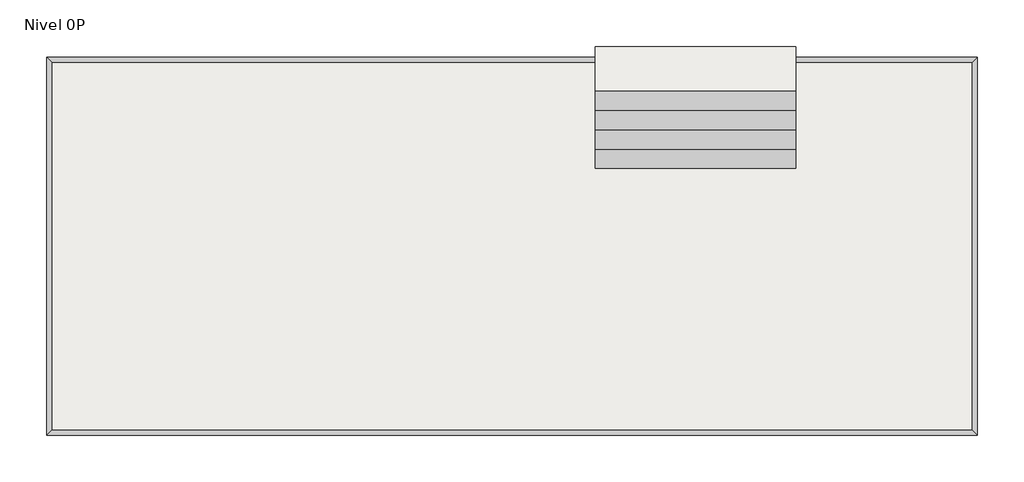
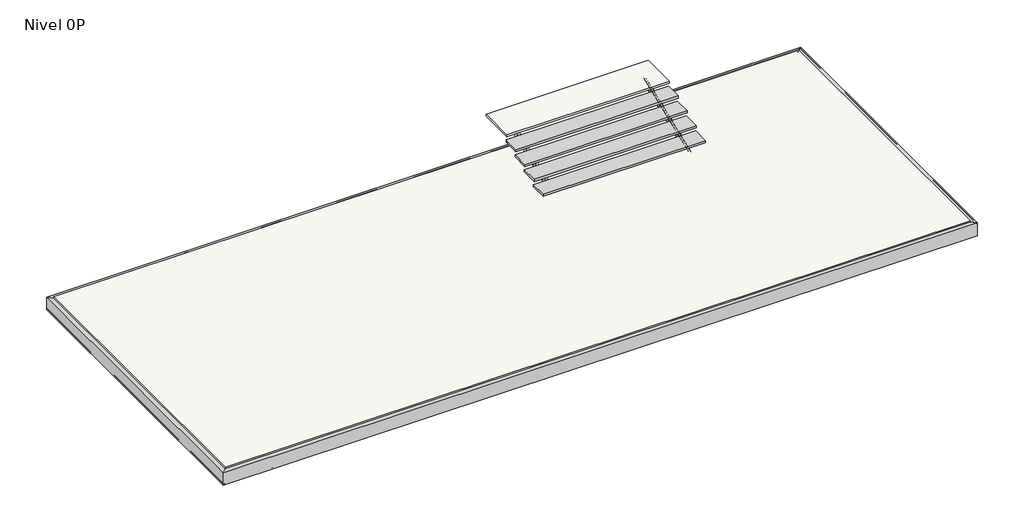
# One storey: 6 beams, 2 slabs, 1 stair flight.
"""IFC4 building model written with IfcOpenShell, lengths in millimetres."""

import ifcopenshell
import ifcopenshell.guid

model = None  # the IFC model being written
_history = None  # IfcOwnerHistory: only IFC2X3 demands one
_inside = {}  # id of a spatial element -> (the spatial element, [elements in it])
_under = {}  # id of a project, library or spatial element -> (it, [spatial elements below it])
_declared = {}  # id of a project -> (the project, [libraries it declares])
_typed = {}  # id of a type object -> (the type object, [elements of that type])
_made_of = {}  # id of a material, layer set ... -> (it, [elements and type objects made of it])


def new_model(schema):
    """Start an empty IFC model of exactly this schema.

    Asked for "IFC4X3", IfcOpenShell would pick the latest addendum, in which some entities
    have other attributes; the version numbers below select the first issue.
    IFC2X3 requires an IfcOwnerHistory on every rooted entity: one is made here for all.
    """
    global model, _history
    if schema == "IFC4X3":
        model = ifcopenshell.file(schema_version=(4, 3, 0, 0))
    else:
        model = ifcopenshell.file(schema=schema)
    _inside.clear()
    _under.clear()
    _declared.clear()
    _typed.clear()
    _made_of.clear()
    _history = None
    if model.schema == "IFC2X3":
        org = make("IfcOrganization", Name="unknown")
        user = make(
            "IfcPersonAndOrganization",
            ThePerson=make("IfcPerson", FamilyName="unknown"),
            TheOrganization=org,
        )
        app = make(
            "IfcApplication",
            ApplicationDeveloper=org,
            Version="unknown",
            ApplicationFullName="unknown",
            ApplicationIdentifier="unknown",
        )
        _history = make(
            "IfcOwnerHistory",
            OwningUser=user,
            OwningApplication=app,
            ChangeAction="ADDED",
            CreationDate=0,
        )
    return model


def make(cls, **values):
    """One entity of the class cls with the attributes given. An attribute that is None is left unset."""
    return model.create_entity(
        cls, **{name: value for name, value in values.items() if value is not None}
    )


def rooted(cls, **values):
    """An entity with a GlobalId (a new one), such as an element, a storey or a relation."""
    return make(cls, GlobalId=ifcopenshell.guid.new(), OwnerHistory=_history, **values)


def si_unit(unit_type, name, prefix=None):
    """IfcSIUnit, for example si_unit("LENGTHUNIT", "METRE", prefix="MILLI")."""
    return make("IfcSIUnit", UnitType=unit_type, Prefix=prefix, Name=name)


def assignment(units):
    """IfcUnitAssignment: the units of a project."""
    return None if units is None else make("IfcUnitAssignment", Units=units)


def point(xyz):
    """IfcCartesianPoint."""
    return None if xyz is None else make("IfcCartesianPoint", Coordinates=xyz)


def direction(xyz):
    """IfcDirection."""
    return None if xyz is None else make("IfcDirection", DirectionRatios=xyz)


def frame(location, z_axis=None, x_axis=None):
    """IfcAxis2Placement3D, a coordinate frame: its origin and axes. An axis left out is left unset."""
    return make(
        "IfcAxis2Placement3D",
        Location=point(location),
        Axis=direction(z_axis),
        RefDirection=direction(x_axis),
    )


def frame_2d(location, x_axis=None):
    """IfcAxis2Placement2D, a coordinate frame in the plane: its origin and x axis."""
    return make(
        "IfcAxis2Placement2D", Location=point(location), RefDirection=direction(x_axis)
    )


def origin():
    """The frame at (0, 0, 0) with its axes left unset."""
    return frame((0.0, 0.0, 0.0))


def place(relative_to, where):
    """IfcLocalPlacement: puts the frame where relative to a parent placement (None: the world)."""
    return make(
        "IfcLocalPlacement", PlacementRelTo=relative_to, RelativePlacement=where
    )


def context(
    kind, dimensions, precision=None, world=None, true_north=None, identifier=None
):
    """IfcGeometricRepresentationContext, for example the 3D "Model" context."""
    return make(
        "IfcGeometricRepresentationContext",
        ContextIdentifier=identifier,
        ContextType=kind,
        CoordinateSpaceDimension=dimensions,
        Precision=precision,
        WorldCoordinateSystem=world,
        TrueNorth=true_north,
    )


def project(units=None, contexts=None):
    """IfcProject with its units and contexts."""
    return rooted(
        "IfcProject",
        Name="project",
        RepresentationContexts=contexts,
        UnitsInContext=assignment(units),
    )


def spatial(cls, under=None, at=None, **own):
    """A site, building, storey or space (cls), placed at a placement, below another one or the project."""
    s = rooted(cls, ObjectPlacement=at, **own)
    if under is not None:
        _under.setdefault(under.id(), (under, []))[1].append(s)
    return s


def polyline(points):
    """IfcPolyline through the points."""
    return make("IfcPolyline", Points=[point(p) for p in points])


def circle_curve(where, radius):
    """IfcCircle in the frame where."""
    return make("IfcCircle", Position=where, Radius=radius)


def ellipse_curve(where, semi_axis1, semi_axis2):
    """IfcEllipse in the frame where."""
    return make(
        "IfcEllipse", Position=where, SemiAxis1=semi_axis1, SemiAxis2=semi_axis2
    )


def trimmed(basis, trim1, trim2, sense, master):
    """IfcTrimmedCurve: the piece of a basis curve between two trims."""
    return make(
        "IfcTrimmedCurve",
        BasisCurve=basis,
        Trim1=trim1,
        Trim2=trim2,
        SenseAgreement=sense,
        MasterRepresentation=master,
    )


def segment(curve, same_sense, transition):
    """IfcCompositeCurveSegment."""
    return make(
        "IfcCompositeCurveSegment",
        Transition=transition,
        SameSense=same_sense,
        ParentCurve=curve,
    )


def composite_curve(segments, self_intersect=None):
    """IfcCompositeCurve: segments joined end to end."""
    return make("IfcCompositeCurve", Segments=segments, SelfIntersect=self_intersect)


def outline(outer, holes=None, kind="AREA"):
    """IfcArbitraryClosedProfileDef: a profile drawn as a closed curve; with holes, ...WithVoids."""
    if holes is None:
        return make("IfcArbitraryClosedProfileDef", ProfileType=kind, OuterCurve=outer)
    return make(
        "IfcArbitraryProfileDefWithVoids",
        ProfileType=kind,
        OuterCurve=outer,
        InnerCurves=holes,
    )


def extrude(swept, where, along, depth):
    """IfcExtrudedAreaSolid: the profile swept, set in the frame where, extruded along a direction by depth."""
    return make(
        "IfcExtrudedAreaSolid",
        SweptArea=swept,
        Position=where,
        ExtrudedDirection=direction(along),
        Depth=depth,
    )


def shape(context_of_items, identifier, shape_type, items):
    """IfcShapeRepresentation: the items that make up one representation, for example the "Body"."""
    return make(
        "IfcShapeRepresentation",
        ContextOfItems=context_of_items,
        RepresentationIdentifier=identifier,
        RepresentationType=shape_type,
        Items=items,
    )


def source(mapping_origin, context_of_items, identifier, shape_type, items):
    """IfcRepresentationMap: a shape defined once, which mapped items show again and again."""
    return make(
        "IfcRepresentationMap",
        MappingOrigin=mapping_origin,
        MappedRepresentation=shape(context_of_items, identifier, shape_type, items),
    )


def transform(
    local_origin,
    x_axis=None,
    y_axis=None,
    z_axis=None,
    scale=None,
    scale2=None,
    scale3=None,
    uniform=True,
):
    """IfcCartesianTransformationOperator3D, or its non-uniform kind. x_axis, y_axis, z_axis: its Axis1, 2, 3."""
    if uniform:
        return make(
            "IfcCartesianTransformationOperator3D",
            Axis1=direction(x_axis),
            Axis2=direction(y_axis),
            LocalOrigin=point(local_origin),
            Scale=scale,
            Axis3=direction(z_axis),
        )
    return make(
        "IfcCartesianTransformationOperator3DnonUniform",
        Axis1=direction(x_axis),
        Axis2=direction(y_axis),
        LocalOrigin=point(local_origin),
        Scale=scale,
        Axis3=direction(z_axis),
        Scale2=scale2,
        Scale3=scale3,
    )


def mapped(mapping_source, mapping_target):
    """IfcMappedItem: shows the shape of a source again, moved by a transform."""
    return make(
        "IfcMappedItem", MappingSource=mapping_source, MappingTarget=mapping_target
    )


def made_of(thing, what):
    """Note that an element or type object is made of a material, layer set ...; save() writes the relation."""
    if what is not None:
        _made_of.setdefault(what.id(), (what, []))[1].append(thing)
    return thing


def element(
    cls,
    number,
    at=None,
    inside=None,
    cuts=None,
    type_object=None,
    material=None,
    context=None,
    identifier="Body",
    shape_type=None,
    held_by="IfcProductDefinitionShape",
    body=None,
    shapes=None,
    **own,
):
    """One element of the class cls, such as IfcWall. Its Tag is "e" and its number.

    at: its placement. inside: the storey or other place that contains it. cuts: it is an
    opening in that element (IfcRelVoidsElement). A single representation is given by context,
    identifier, shape_type and body (its items); several are given by shapes. held_by: the class
    of the entity that holds the representations. save() writes the other relations.
    """
    e = rooted(cls, Tag="e%d" % number, ObjectPlacement=at, **own)
    if body is not None:
        shapes = [shape(context, identifier, shape_type, body)]
    if shapes is not None:
        e.Representation = make(held_by, Representations=shapes)
    if inside is not None:
        _inside.setdefault(inside.id(), (inside, []))[1].append(e)
    if cuts is not None:
        rooted(
            "IfcRelVoidsElement", RelatingBuildingElement=cuts, RelatedOpeningElement=e
        )
    if type_object is not None:
        _typed.setdefault(type_object.id(), (type_object, []))[1].append(e)
    return made_of(e, material)


def aggregate(whole, parts):
    """IfcRelAggregates: a whole, such as a stair, and the parts it consists of."""
    return rooted("IfcRelAggregates", RelatingObject=whole, RelatedObjects=parts)


def save(model, path):
    """Write the relations noted so far, then the file.

    IfcRelAggregates (storeys below a building ...), IfcRelContainedInSpatialStructure (elements
    in a storey), IfcRelDefinesByType, IfcRelAssociatesMaterial and IfcRelDeclares: one each for
    every whole, place, type object, material and project.
    """
    for whole, parts in _under.values():
        aggregate(whole, parts)
    for where, things in _inside.values():
        rooted(
            "IfcRelContainedInSpatialStructure",
            RelatedElements=things,
            RelatingStructure=where,
        )
    for kind, things in _typed.values():
        rooted("IfcRelDefinesByType", RelatedObjects=things, RelatingType=kind)
    for what, things in _made_of.values():
        rooted("IfcRelAssociatesMaterial", RelatedObjects=things, RelatingMaterial=what)
    for by, libraries in _declared.values():
        rooted("IfcRelDeclares", RelatingContext=by, RelatedDefinitions=libraries)
    model.write(path)


def plane_surface(at):
    """IfcPlane: the flat surface through the origin of the frame at, square to its z axis."""
    return make("IfcPlane", Position=at)


def cylinder_surface(at, radius):
    """IfcCylindricalSurface: all points at the distance radius from the z axis of the frame at."""
    return make("IfcCylindricalSurface", Position=at, Radius=radius)


def revolved_surface(curve, axis_point, axis_direction):
    """IfcSurfaceOfRevolution: the curve turned about the line through axis_point along axis_direction."""
    return make(
        "IfcSurfaceOfRevolution",
        SweptCurve=make("IfcArbitraryOpenProfileDef", ProfileType="CURVE", Curve=curve),
        AxisPosition=make("IfcAxis1Placement", Location=point(axis_point), Axis=direction(axis_direction)),
    )


def advanced_brep(points, edges, surfaces, faces):
    """IfcAdvancedBrep: a solid bounded by faces that lie on surfaces and meet in shared edges.

    An edge is (start, end): straight between two places in points (the first is 0);
    or (start, end, curve); or (start, end, curve, False) where it runs against its curve.
    A face is (place in surfaces, loops), or (place, loops, False) where it looks against
    its surface's normal. A loop lists edges by number (the first is 1), with a minus sign
    where the edge is run from its end to its start. The first loop is the outer one.
    """
    corners = [point(p) for p in points]
    vertices = [make("IfcVertexPoint", VertexGeometry=c) for c in corners]
    made = []
    for start, end, *more in edges:
        made.append(
            make(
                "IfcEdgeCurve",
                EdgeStart=vertices[start],
                EdgeEnd=vertices[end],
                EdgeGeometry=more[0] if more else make("IfcPolyline", Points=[corners[start], corners[end]]),
                SameSense=more[1] if len(more) > 1 else True,
            )
        )
    hull = []
    for where, loops, *sense in faces:
        bounds = []
        for j, loop in enumerate(loops):
            ring = [make("IfcOrientedEdge", EdgeElement=made[abs(k) - 1], Orientation=k > 0) for k in loop]
            bounds.append(
                make(
                    "IfcFaceOuterBound" if j == 0 else "IfcFaceBound",
                    Bound=make("IfcEdgeLoop", EdgeList=ring),
                    Orientation=True,
                )
            )
        hull.append(make("IfcAdvancedFace", Bounds=bounds, FaceSurface=surfaces[where], SameSense=sense[0] if sense else True))
    return make("IfcAdvancedBrep", Outer=make("IfcClosedShell", CfsFaces=hull))


def slab_6e3d43eb(model_context):
    return source(origin(), model_context, "Body", "SweptSolid", [
        extrude(outline(polyline([(-5995.8480416, -4301.9240046), (-5995.8480416, -3493.0576775), (-2334.865283, -3493.0576775), (-2334.865283, -4301.9240046), (-5995.8480416, -4301.9240046)])), frame((0.0, 0.0, 1380.0), z_axis=(0.0, 0.0, 1.0), x_axis=(1.0, 0.0, 0.0)), (0.0, 0.0, 1.0), 50.0),
    ])


def stair_flight_acde8ac0(model_context):
    return source(origin(), model_context, "Body", "SweptSolid", [
        extrude(outline(polyline([(-5995.8480416, -5336.9240046), (-2334.865283, -5336.9240046), (-2334.865283, -5721.9240046), (-5995.8480416, -5721.9240046), (-5995.8480416, -5336.9240046)])), frame((0.0, 0.0, 820.0), z_axis=(0.0, 0.0, 1.0), x_axis=(1.0, 0.0, 0.0)), (0.0, 0.0, 1.0), 50.0),
        extrude(outline(polyline([(-5995.8480416, -4981.9240046), (-2334.865283, -4981.9240046), (-2334.865283, -5366.9240046), (-5995.8480416, -5366.9240046), (-5995.8480416, -4981.9240046)])), frame((0.0, 0.0, 960.0), z_axis=(0.0, 0.0, 1.0), x_axis=(1.0, 0.0, 0.0)), (0.0, 0.0, 1.0), 50.0),
        extrude(outline(polyline([(-5995.8480416, -4626.9240046), (-2334.865283, -4626.9240046), (-2334.865283, -5011.9240046), (-5995.8480416, -5011.9240046), (-5995.8480416, -4626.9240046)])), frame((0.0, 0.0, 1100.0), z_axis=(0.0, 0.0, 1.0), x_axis=(1.0, 0.0, 0.0)), (0.0, 0.0, 1.0), 50.0),
        extrude(outline(polyline([(-5995.8480416, -4271.9240046), (-2334.865283, -4271.9240046), (-2334.865283, -4301.9240046), (-2334.865283, -4656.9240046), (-5995.8480416, -4656.9240046), (-5995.8480416, -4301.9240046), (-5995.8480416, -4271.9240046)])), frame((0.0, 0.0, 1240.0), z_axis=(0.0, 0.0, 1.0), x_axis=(1.0, 0.0, 0.0)), (0.0, 0.0, 1.0), 50.0),
    ])


model = new_model("IFC4")

# Units and contexts
model_context = context("Model", 3, world=origin())
ifc_project = project(units=[si_unit("LENGTHUNIT", "METRE", prefix="MILLI")], contexts=[model_context])

# Site, building, storey
site = spatial("IfcSite", under=ifc_project)
building = spatial("IfcBuilding", under=site)
storey = spatial("IfcBuildingStorey", under=building, Name="Nivel 0P", Elevation=700.0)

# Beams
placement = place(None, origin())
element("IfcBeam", 1, ObjectType="Viga UPN : UPN 120", at=placement, inside=storey, context=model_context, shape_type="AdvancedBrep", body=[
    advanced_brep(
    [(-5695.8480416, -5669.2034439, 688.8180778), (-5695.8480416, -5625.2703087, 577.1494625), (-5640.8480416, -5625.2703087, 577.1494625), (-5640.8480416, -5626.2388963, 579.6114046), (-5644.9891881, -5627.8811421, 583.7856415), (-5680.5657486, -5628.9231353, 586.434165), (-5688.8480416, -5632.2076268, 594.7826386), (-5688.8480416, -5662.2661258, 671.1849017), (-5680.5657486, -5665.5506173, 679.5333754), (-5644.9891881, -5666.5926105, 682.1818989), (-5640.8480416, -5668.2348563, 686.3561357), (-5640.8480416, -5669.2034439, 688.8180778), (-5695.8480416, -3912.3671081, 1380.0), (-5695.8480416, -3889.6105676, 1260.0), (-5640.8480416, -3889.6105676, 1260.0), (-5640.8480416, -3890.1122778, 1262.645623), (-5644.9891881, -3890.9629303, 1267.1312917), (-5680.5657486, -3891.5026633, 1269.9774166), (-5688.8480416, -3893.2039683, 1278.9487541), (-5688.8480416, -3908.7737073, 1361.0512459), (-5680.5657486, -3910.4750124, 1370.0225834), (-5644.9891881, -3911.0147453, 1372.8687083), (-5640.8480416, -3911.8653978, 1377.354377), (-5640.8480416, -3912.3671081, 1380.0)],
    [
        (0, 1),
        (1, 2),
        (2, 3),
        (3, 4, circle_curve(frame((-5645.3480416, -5626.2388963, 579.6114046), z_axis=(0.0, -0.9305717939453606, -0.36610945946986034), x_axis=(0.0, -0.36610945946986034, 0.9305717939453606)), 4.5)),
        (4, 5),
        (5, 6, circle_curve(frame((-5679.8480416, -5632.2076268, 594.7826386), z_axis=(0.0, 0.9305717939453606, 0.36610945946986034), x_axis=(-0.9968152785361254, -0.029195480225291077, 0.07420865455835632)), 9.0)),
        (6, 7),
        (7, 8, circle_curve(frame((-5679.8480416, -5662.2661258, 671.1849017), z_axis=(0.0, 0.9305717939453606, 0.36610945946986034), x_axis=(0.0, -0.36610945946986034, 0.9305717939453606)), 9.0)),
        (8, 9),
        (9, 10, circle_curve(frame((-5645.3480416, -5668.2348563, 686.3561357), z_axis=(0.0, -0.9305717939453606, -0.36610945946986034), x_axis=(0.9968152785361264, -0.029195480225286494, 0.07420865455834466)), 4.5)),
        (10, 11),
        (11, 0),
        (0, 12),
        (12, 13),
        (13, 1),
        (13, 14),
        (14, 2),
        (14, 15),
        (15, 3),
        (15, 16, ellipse_curve(frame((-5645.3480416, -3890.1122778, 1262.645623), z_axis=(0.0, -0.9824896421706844, -0.18631721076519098), x_axis=(0.0, -0.18631721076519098, 0.9824896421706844)), 4.580201, 4.5)),
        (16, 4),
        (16, 17),
        (17, 5),
        (17, 18, ellipse_curve(frame((-5679.8480416, -3893.2039683, 1278.9487541), z_axis=(0.0, 0.9824896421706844, 0.18631721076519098), x_axis=(0.0, -0.18631721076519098, 0.9824896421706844)), 9.1604019, 9.0)),
        (18, 6),
        (18, 19),
        (19, 7),
        (19, 20, ellipse_curve(frame((-5679.8480416, -3908.7737073, 1361.0512459), z_axis=(0.0, 0.9824896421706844, 0.18631721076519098), x_axis=(0.0, -0.18631721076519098, 0.9824896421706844)), 9.1604019, 9.0)),
        (20, 8),
        (20, 21),
        (21, 9),
        (21, 22, ellipse_curve(frame((-5645.3480416, -3911.8653978, 1377.354377), z_axis=(0.0, -0.9824896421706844, -0.18631721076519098), x_axis=(0.0, -0.18631721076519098, 0.9824896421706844)), 4.580201, 4.5)),
        (22, 10),
        (22, 23),
        (23, 11),
        (23, 12),
    ],
    [
        plane_surface(frame((-5679.8480416, -5647.2368763, 632.9837702), z_axis=(0.0, -0.9305717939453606, -0.36610945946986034), x_axis=(0.0, -0.36610945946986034, 0.9305717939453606))),
        plane_surface(frame((-5695.8480416, -5647.2368763, 632.9837702), z_axis=(-1.0, 0.0, 0.0), x_axis=(0.0, 0.36610945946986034, -0.9305717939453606))),
        plane_surface(frame((-5668.3480416, -5625.2703087, 577.1494625), z_axis=(0.0, 0.36610945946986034, -0.9305717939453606), x_axis=(1.0, 0.0, 0.0))),
        plane_surface(frame((-5640.8480416, -5625.7546025, 578.3804336), z_axis=(1.0, 0.0, 0.0), x_axis=(0.0, -0.36610945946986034, 0.9305717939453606))),
        cylinder_surface(frame((-5645.3480416, -5626.2388963, 579.6114046), z_axis=(0.0, 0.9305717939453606, 0.36610945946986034), x_axis=(0.0, -0.36610945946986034, 0.9305717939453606)), 4.5),
        plane_surface(frame((-5662.7774684, -5628.4021387, 585.1099032), z_axis=(0.07974522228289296, -0.36494350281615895, 0.927608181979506), x_axis=(-0.9968152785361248, -0.029195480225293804, 0.07420865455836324))),
        revolved_surface(polyline([(-5688.819379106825, -3891.878483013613, 1280.241485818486), (-5688.819379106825, -5632.470386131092, 595.4505164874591)]), (-5679.8480416, -5632.2076268, 594.7826386), (0.0, 0.9305717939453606, 0.36610945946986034)),
        plane_surface(frame((-5688.8480416, -5647.2368763, 632.9837702), z_axis=(1.0, 0.0, 0.0), x_axis=(0.0, -0.36610945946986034, 0.9305717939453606))),
        revolved_surface(polyline([(-5679.8480416, -3910.4804478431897, 1370.051245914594), (-5679.8480416, -5665.5611109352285, 679.5600478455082)]), (-5679.8480416, -5662.2661258, 671.1849017), (0.0, 0.9305717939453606, 0.36610945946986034)),
        plane_surface(frame((-5662.7774684, -5666.0716139, 680.8576371), z_axis=(0.07974522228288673, 0.3649435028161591, -0.9276081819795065), x_axis=(0.9968152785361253, -0.029195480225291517, 0.07420865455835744))),
        cylinder_surface(frame((-5645.3480416, -5668.2348563, 686.3561357), z_axis=(0.0, 0.9305717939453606, 0.36610945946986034), x_axis=(0.9968152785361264, -0.029195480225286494, 0.07420865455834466)), 4.5),
        plane_surface(frame((-5640.8480416, -5668.7191501, 687.5871067), z_axis=(1.0, 0.0, 0.0), x_axis=(0.0, -0.36610945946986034, 0.9305717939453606))),
        plane_surface(frame((-5668.3480416, -5669.2034439, 688.8180778), z_axis=(0.0, -0.36610945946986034, 0.9305717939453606), x_axis=(-1.0, 0.0, 0.0))),
        plane_surface(frame((-5710.1480416, -3912.3671081, 1380.0), z_axis=(0.0, 0.9824896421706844, 0.18631721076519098), x_axis=(1.0, 0.0, 0.0))),
    ],
    [
        (0, [[1, 2, 3, 4, 5, 6, 7, 8, 9, 10, 11, 12]]),
        (1, [[-1, 13, 14, 15]]),
        (2, [[-2, -15, 16, 17]]),
        (3, [[-3, -17, 18, 19]]),
        (4, [[-4, -19, 20, 21]]),
        (5, [[-21, 22, 23, -5]]),
        (6, [[-6, -23, 24, 25]]),
        (7, [[-7, -25, 26, 27]]),
        (8, [[-8, -27, 28, 29]]),
        (9, [[-29, 30, 31, -9]]),
        (10, [[-10, -31, 32, 33]]),
        (11, [[-11, -33, 34, 35]]),
        (12, [[-12, -35, 36, -13]]),
        (13, [[-36, -34, -32, -30, -28, -26, -24, -22, -20, -18, -16, -14]]),
    ],
),
])
element("IfcBeam", 2, ObjectType="Viga UPN : UPN 120", at=placement, inside=storey, context=model_context, shape_type="SweptSolid", body=[
    extrude(outline(composite_curve([segment(polyline([(60.0000001, 16.0), (60.0000001, -39.0), (57.3543771, -39.0)]), True, "CONTINUOUS"), segment(trimmed(circle_curve(frame_2d((57.3543771, -34.5)), 4.5), [point((57.3543771, -39.0))], [point((52.8687083, -34.8588535))], False, "CARTESIAN"), True, "CONTINUOUS"), segment(polyline([(52.8687083, -34.8588535), (50.0225834, 0.717707)]), True, "CONTINUOUS"), segment(trimmed(circle_curve(frame_2d((41.051246, 0.0)), 9.0), [point((50.0225834, 0.717707))], [point((41.051246, 9.0))], True, "CARTESIAN"), True, "CONTINUOUS"), segment(polyline([(41.051246, 9.0), (-41.0512458, 9.0)]), True, "CONTINUOUS"), segment(trimmed(circle_curve(frame_2d((-41.0512458, 0.0)), 9.0), [point((-41.0512458, 9.0))], [point((-50.0225834, 0.717707))], True, "CARTESIAN"), True, "CONTINUOUS"), segment(polyline([(-50.0225834, 0.717707), (-52.8687083, -34.8588535)]), True, "CONTINUOUS"), segment(trimmed(circle_curve(frame_2d((-57.354377, -34.5)), 4.5), [point((-52.8687083, -34.8588535))], [point((-57.354377, -39.0))], False, "CARTESIAN"), True, "CONTINUOUS"), segment(polyline([(-57.354377, -39.0), (-60.0, -39.0), (-60.0, 16.0), (60.0000001, 16.0)]), True, "CONTINUOUS")], self_intersect=False)), frame((-2642.165283, -5646.9475942, 633.0975807), z_axis=(0.0, 0.9305717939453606, 0.36610945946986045), x_axis=(0.0, -0.36610945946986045, 0.9305717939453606)), (0.0, 0.0, 1.0), 1887.1819311),
])
element("IfcBeam", 3, ObjectType="Viga UPN : UPN 300", at=placement, inside=storey, context=model_context, shape_type="AdvancedBrep", body=[
    advanced_brep(
    [(-16031.5756278, -10599.8377977, 400.0), (989.0864411, -10599.8377977, 400.0), (989.0864411, -10599.8377977, 700.0), (-16031.5756278, -10599.8377977, 700.0), (-15931.5756278, -10499.8377977, 400.0), (889.0864411, -10499.8377977, 400.0), (-15931.5756278, -10499.8377977, 404.6144408), (889.0864411, -10499.8377977, 404.6144408), (-15938.9376661, -10507.1998359, 412.5889631), (896.4484794, -10507.1998359, 412.5889631), (-16006.8515514, -10575.1137213, 418.0220739), (964.3623647, -10575.1137213, 418.0220739), (-16021.5756278, -10589.8377977, 433.9711183), (979.0864411, -10589.8377977, 433.9711183), (-16021.5756278, -10589.8377977, 666.0288817), (979.0864411, -10589.8377977, 666.0288817), (-16006.8515514, -10575.1137213, 681.9779261), (964.3623647, -10575.1137213, 681.9779261), (-15938.9376661, -10507.1998359, 687.4110369), (896.4484794, -10507.1998359, 687.4110369), (-15931.5756278, -10499.8377977, 695.3855592), (889.0864411, -10499.8377977, 695.3855592), (-15931.5756278, -10499.8377977, 700.0), (889.0864411, -10499.8377977, 700.0)],
    [
        (0, 1),
        (1, 2),
        (2, 3),
        (3, 0),
        (4, 5),
        (5, 1),
        (0, 4),
        (6, 7),
        (7, 5),
        (4, 6),
        (8, 9),
        (9, 7, ellipse_curve(frame((897.0864411, -10507.8377977, 404.6144408), z_axis=(-0.7071067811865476, -0.7071067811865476, 0.0), x_axis=(-0.7071067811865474, 0.7071067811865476, 0.0)), 11.3137085, 8.0)),
        (6, 8, ellipse_curve(frame((-15939.5756278, -10507.8377977, 404.6144408), z_axis=(0.7071067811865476, -0.7071067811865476, 0.0), x_axis=(-0.7071067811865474, -0.7071067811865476, 0.0)), 11.3137085, 8.0)),
        (8, 10),
        (10, 11),
        (11, 9),
        (12, 13),
        (13, 11, ellipse_curve(frame((963.0864411, -10573.8377977, 433.9711183), z_axis=(0.7071067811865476, 0.7071067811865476, 0.0), x_axis=(0.7071067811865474, -0.7071067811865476, 0.0)), 22.627417, 16.0)),
        (10, 12, ellipse_curve(frame((-16005.5756278, -10573.8377977, 433.9711183), z_axis=(-0.7071067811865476, 0.7071067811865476, 0.0), x_axis=(0.7071067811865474, 0.7071067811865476, 0.0)), 22.627417, 16.0)),
        (14, 15),
        (15, 13),
        (12, 14),
        (16, 17),
        (17, 15, ellipse_curve(frame((963.0864411, -10573.8377977, 666.0288817), z_axis=(0.7071067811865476, 0.7071067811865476, 0.0), x_axis=(0.7071067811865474, -0.7071067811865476, 0.0)), 22.627417, 16.0)),
        (14, 16, ellipse_curve(frame((-16005.5756278, -10573.8377977, 666.0288817), z_axis=(-0.7071067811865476, 0.7071067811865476, 0.0), x_axis=(0.7071067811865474, 0.7071067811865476, 0.0)), 22.627417, 16.0)),
        (16, 18),
        (18, 19),
        (19, 17),
        (20, 21),
        (21, 19, ellipse_curve(frame((897.0864411, -10507.8377977, 695.3855592), z_axis=(-0.7071067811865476, -0.7071067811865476, 0.0), x_axis=(-0.7071067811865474, 0.7071067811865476, 0.0)), 11.3137085, 8.0)),
        (18, 20, ellipse_curve(frame((-15939.5756278, -10507.8377977, 695.3855592), z_axis=(0.7071067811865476, -0.7071067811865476, 0.0), x_axis=(-0.7071067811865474, -0.7071067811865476, 0.0)), 11.3137085, 8.0)),
        (22, 23),
        (23, 21),
        (20, 22),
        (2, 23),
        (22, 3),
    ],
    [
        plane_surface(frame((-16070.9445933, -10599.8377977, 700.0), z_axis=(0.0, -1.0, 0.0), x_axis=(1.0, 0.0, 0.0))),
        plane_surface(frame((-16070.9445933, -10599.8377977, 400.0), z_axis=(0.0, 0.0, -1.0), x_axis=(1.0, 0.0, 0.0))),
        plane_surface(frame((-16070.9445933, -10499.8377977, 400.0), z_axis=(0.0, 1.0, 0.0), x_axis=(1.0, 0.0, 0.0))),
        cylinder_surface(frame((-16070.9445933, -10507.8377977, 404.6144408), z_axis=(-1.0, 0.0, 0.0), x_axis=(0.0, 1.0, 0.0)), 8.0),
        plane_surface(frame((-16070.9445933, -10549.8377977, 416.0), z_axis=(0.0, 0.07974522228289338, 0.9968152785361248), x_axis=(1.0, 0.0, 0.0))),
        revolved_surface(polyline([(979.0864411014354, -10557.8377977, 433.9711183), (-16021.575627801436, -10557.8377977, 433.9711183)]), (-16070.9445933, -10573.8377977, 433.9711183), (1.0, 0.0, 0.0)),
        plane_surface(frame((-16070.9445933, -10589.8377977, 433.9711183), z_axis=(0.0, 1.0, 0.0), x_axis=(1.0, 0.0, 0.0))),
        revolved_surface(polyline([(979.0864411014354, -10557.8377977, 666.0288817), (-16021.575627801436, -10557.8377977, 666.0288817)]), (-16070.9445933, -10573.8377977, 666.0288817), (1.0, 0.0, 0.0)),
        plane_surface(frame((-16070.9445933, -10549.8377977, 684.0), z_axis=(0.0, 0.07974522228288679, -0.9968152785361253), x_axis=(1.0, 0.0, 0.0))),
        cylinder_surface(frame((-16070.9445933, -10507.8377977, 695.3855592), z_axis=(-1.0, 0.0, 0.0), x_axis=(0.0, 1.0, 0.0)), 8.0),
        plane_surface(frame((-16070.9445933, -10499.8377977, 695.3855592), z_axis=(0.0, 1.0, 0.0), x_axis=(1.0, 0.0, 0.0))),
        plane_surface(frame((-16070.9445933, -10499.8377977, 700.0), z_axis=(0.0, 0.0, 1.0), x_axis=(1.0, 0.0, 0.0))),
        plane_surface(frame((-15931.5756278, -10499.8377977, 700.0), z_axis=(-0.7071067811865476, 0.7071067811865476, 0.0), x_axis=(0.7071067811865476, 0.7071067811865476, 0.0))),
        plane_surface(frame((889.0864411, -10499.8377977, 700.0), z_axis=(0.7071067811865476, 0.7071067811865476, 0.0), x_axis=(0.7071067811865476, -0.7071067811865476, 0.0))),
    ],
    [
        (0, [[1, 2, 3, 4]]),
        (1, [[5, 6, -1, 7]]),
        (2, [[8, 9, -5, 10]]),
        (3, [[11, 12, -8, 13]]),
        (4, [[14, 15, 16, -11]]),
        (5, [[17, 18, -15, 19]]),
        (6, [[20, 21, -17, 22]]),
        (7, [[23, 24, -20, 25]]),
        (8, [[26, 27, 28, -23]]),
        (9, [[29, 30, -27, 31]]),
        (10, [[32, 33, -29, 34]]),
        (11, [[-3, 35, -32, 36]]),
        (12, [[-36, -34, -31, -26, -25, -22, -19, -14, -13, -10, -7, -4]]),
        (13, [[-2, -6, -9, -12, -16, -18, -21, -24, -28, -30, -33, -35]]),
    ],
),
])
element("IfcBeam", 4, ObjectType="Viga UPN : UPN 300", at=placement, inside=storey, context=model_context, shape_type="AdvancedBrep", body=[
    advanced_brep(
    [(989.0864411, -10599.8377977, 400.0), (989.0864411, -3693.1309012, 400.0), (989.0864411, -3693.1309012, 700.0), (989.0864411, -10599.8377977, 700.0), (889.0864411, -10499.8377977, 400.0), (889.0864411, -3793.1309012, 400.0), (889.0864411, -10499.8377977, 404.6144408), (889.0864411, -3793.1309012, 404.6144408), (896.4484794, -10507.1998359, 412.5889631), (896.4484794, -3785.7688629, 412.5889631), (964.3623647, -10575.1137213, 418.0220739), (964.3623647, -3717.8549776, 418.0220739), (979.0864411, -10589.8377977, 433.9711183), (979.0864411, -3703.1309012, 433.9711183), (979.0864411, -10589.8377977, 666.0288817), (979.0864411, -3703.1309012, 666.0288817), (964.3623647, -10575.1137213, 681.9779261), (964.3623647, -3717.8549776, 681.9779261), (896.4484794, -10507.1998359, 687.4110369), (896.4484794, -3785.7688629, 687.4110369), (889.0864411, -10499.8377977, 695.3855592), (889.0864411, -3793.1309012, 695.3855592), (889.0864411, -10499.8377977, 700.0), (889.0864411, -3793.1309012, 700.0)],
    [
        (0, 1),
        (1, 2),
        (2, 3),
        (3, 0),
        (4, 5),
        (5, 1),
        (0, 4),
        (6, 7),
        (7, 5),
        (4, 6),
        (8, 9),
        (9, 7, ellipse_curve(frame((897.0864411, -3785.1309012, 404.6144408), z_axis=(0.7071067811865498, -0.7071067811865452, 0.0), x_axis=(-0.7071067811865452, -0.7071067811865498, 0.0)), 11.3137085, 8.0)),
        (6, 8, ellipse_curve(frame((897.0864411, -10507.8377977, 404.6144408), z_axis=(0.7071067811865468, 0.7071067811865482, 0.0), x_axis=(0.7071067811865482, -0.7071067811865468, 0.0)), 11.3137085, 8.0)),
        (8, 10),
        (10, 11),
        (11, 9),
        (12, 13),
        (13, 11, ellipse_curve(frame((963.0864411, -3719.1309012, 433.9711183), z_axis=(-0.7071067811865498, 0.7071067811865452, 0.0), x_axis=(0.7071067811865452, 0.7071067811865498, 0.0)), 22.627417, 16.0)),
        (10, 12, ellipse_curve(frame((963.0864411, -10573.8377977, 433.9711183), z_axis=(-0.7071067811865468, -0.7071067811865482, 0.0), x_axis=(-0.7071067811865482, 0.7071067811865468, 0.0)), 22.627417, 16.0)),
        (14, 15),
        (15, 13),
        (12, 14),
        (16, 17),
        (17, 15, ellipse_curve(frame((963.0864411, -3719.1309012, 666.0288817), z_axis=(-0.7071067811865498, 0.7071067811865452, 0.0), x_axis=(0.7071067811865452, 0.7071067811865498, 0.0)), 22.627417, 16.0)),
        (14, 16, ellipse_curve(frame((963.0864411, -10573.8377977, 666.0288817), z_axis=(-0.7071067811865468, -0.7071067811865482, 0.0), x_axis=(-0.7071067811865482, 0.7071067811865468, 0.0)), 22.627417, 16.0)),
        (16, 18),
        (18, 19),
        (19, 17),
        (20, 21),
        (21, 19, ellipse_curve(frame((897.0864411, -3785.1309012, 695.3855592), z_axis=(0.7071067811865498, -0.7071067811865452, 0.0), x_axis=(-0.7071067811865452, -0.7071067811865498, 0.0)), 11.3137085, 8.0)),
        (18, 20, ellipse_curve(frame((897.0864411, -10507.8377977, 695.3855592), z_axis=(0.7071067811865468, 0.7071067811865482, 0.0), x_axis=(0.7071067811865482, -0.7071067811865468, 0.0)), 11.3137085, 8.0)),
        (22, 23),
        (23, 21),
        (20, 22),
        (2, 23),
        (22, 3),
    ],
    [
        plane_surface(frame((989.0864411, -10653.8593822, 700.0), z_axis=(1.0, 0.0, 0.0), x_axis=(0.0, 1.0, 0.0))),
        plane_surface(frame((989.0864411, -10653.8593822, 400.0), z_axis=(0.0, 0.0, -1.0), x_axis=(0.0, 1.0, 0.0))),
        plane_surface(frame((889.0864411, -10653.8593822, 400.0), z_axis=(-1.0, 0.0, 0.0), x_axis=(0.0, 1.0, 0.0))),
        cylinder_surface(frame((897.0864411, -10653.8593822, 404.6144408), z_axis=(0.0, -1.0, 0.0), x_axis=(-1.0, 0.0, 0.0)), 8.0),
        plane_surface(frame((939.0864411, -10653.8593822, 416.0), z_axis=(-0.07974522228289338, 0.0, 0.9968152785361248), x_axis=(0.0, 1.0, 0.0))),
        revolved_surface(polyline([(947.0864411, -3703.130901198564, 433.9711183), (947.0864411, -10589.837797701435, 433.9711183)]), (963.0864411, -10653.8593822, 433.9711183), (0.0, 1.0, 0.0)),
        plane_surface(frame((979.0864411, -10653.8593822, 433.9711183), z_axis=(-1.0, 0.0, 0.0), x_axis=(0.0, 1.0, 0.0))),
        revolved_surface(polyline([(947.0864411, -3703.130901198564, 666.0288817), (947.0864411, -10589.837797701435, 666.0288817)]), (963.0864411, -10653.8593822, 666.0288817), (0.0, 1.0, 0.0)),
        plane_surface(frame((939.0864411, -10653.8593822, 684.0), z_axis=(-0.07974522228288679, 0.0, -0.9968152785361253), x_axis=(0.0, 1.0, 0.0))),
        cylinder_surface(frame((897.0864411, -10653.8593822, 695.3855592), z_axis=(0.0, -1.0, 0.0), x_axis=(-1.0, 0.0, 0.0)), 8.0),
        plane_surface(frame((889.0864411, -10653.8593822, 695.3855592), z_axis=(-1.0, 0.0, 0.0), x_axis=(0.0, 1.0, 0.0))),
        plane_surface(frame((889.0864411, -10653.8593822, 700.0), z_axis=(0.0, 0.0, 1.0), x_axis=(0.0, 1.0, 0.0))),
        plane_surface(frame((889.0864411, -3793.1309012, 700.0), z_axis=(-0.7071067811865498, 0.7071067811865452, 0.0), x_axis=(0.7071067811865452, 0.7071067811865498, 0.0))),
        plane_surface(frame((889.0864411, -10499.8377977, 700.0), z_axis=(-0.7071067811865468, -0.7071067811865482, 0.0), x_axis=(0.7071067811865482, -0.7071067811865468, 0.0))),
    ],
    [
        (0, [[1, 2, 3, 4]]),
        (1, [[5, 6, -1, 7]]),
        (2, [[8, 9, -5, 10]]),
        (3, [[11, 12, -8, 13]]),
        (4, [[14, 15, 16, -11]]),
        (5, [[17, 18, -15, 19]]),
        (6, [[20, 21, -17, 22]]),
        (7, [[23, 24, -20, 25]]),
        (8, [[26, 27, 28, -23]]),
        (9, [[29, 30, -27, 31]]),
        (10, [[32, 33, -29, 34]]),
        (11, [[-3, 35, -32, 36]]),
        (12, [[-2, -6, -9, -12, -16, -18, -21, -24, -28, -30, -33, -35]]),
        (13, [[-36, -34, -31, -26, -25, -22, -19, -14, -13, -10, -7, -4]]),
    ],
),
])
element("IfcBeam", 5, ObjectType="Viga UPN : UPN 300", at=placement, inside=storey, context=model_context, shape_type="AdvancedBrep", body=[
    advanced_brep(
    [(989.0864411, -3693.1309012, 400.0), (-16031.5756278, -3693.1309012, 400.0), (-16031.5756278, -3693.1309012, 700.0), (989.0864411, -3693.1309012, 700.0), (889.0864411, -3793.1309012, 400.0), (-15931.5756278, -3793.1309012, 400.0), (889.0864411, -3793.1309012, 404.6144408), (-15931.5756278, -3793.1309012, 404.6144408), (896.4484794, -3785.7688629, 412.5889631), (-15938.9376661, -3785.7688629, 412.5889631), (964.3623647, -3717.8549776, 418.0220739), (-16006.8515514, -3717.8549776, 418.0220739), (979.0864411, -3703.1309012, 433.9711183), (-16021.5756278, -3703.1309012, 433.9711183), (979.0864411, -3703.1309012, 666.0288817), (-16021.5756278, -3703.1309012, 666.0288817), (964.3623647, -3717.8549776, 681.9779261), (-16006.8515514, -3717.8549776, 681.9779261), (896.4484794, -3785.7688629, 687.4110369), (-15938.9376661, -3785.7688629, 687.4110369), (889.0864411, -3793.1309012, 695.3855592), (-15931.5756278, -3793.1309012, 695.3855592), (889.0864411, -3793.1309012, 700.0), (-15931.5756278, -3793.1309012, 700.0)],
    [
        (0, 1),
        (1, 2),
        (2, 3),
        (3, 0),
        (4, 5),
        (5, 1),
        (0, 4),
        (6, 7),
        (7, 5),
        (4, 6),
        (8, 9),
        (9, 7, ellipse_curve(frame((-15939.5756278, -3785.1309012, 404.6144408), z_axis=(0.707106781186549, 0.707106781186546, 0.0), x_axis=(0.707106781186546, -0.707106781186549, 0.0)), 11.3137085, 8.0)),
        (6, 8, ellipse_curve(frame((897.0864411, -3785.1309012, 404.6144408), z_axis=(-0.7071067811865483, 0.7071067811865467, 0.0), x_axis=(0.7071067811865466, 0.7071067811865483, 0.0)), 11.3137085, 8.0)),
        (8, 10),
        (10, 11),
        (11, 9),
        (12, 13),
        (13, 11, ellipse_curve(frame((-16005.5756278, -3719.1309012, 433.9711183), z_axis=(-0.707106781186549, -0.707106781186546, 0.0), x_axis=(-0.707106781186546, 0.707106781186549, 0.0)), 22.627417, 16.0)),
        (10, 12, ellipse_curve(frame((963.0864411, -3719.1309012, 433.9711183), z_axis=(0.7071067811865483, -0.7071067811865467, 0.0), x_axis=(-0.7071067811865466, -0.7071067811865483, 0.0)), 22.627417, 16.0)),
        (14, 15),
        (15, 13),
        (12, 14),
        (16, 17),
        (17, 15, ellipse_curve(frame((-16005.5756278, -3719.1309012, 666.0288817), z_axis=(-0.707106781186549, -0.707106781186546, 0.0), x_axis=(-0.707106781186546, 0.707106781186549, 0.0)), 22.627417, 16.0)),
        (14, 16, ellipse_curve(frame((963.0864411, -3719.1309012, 666.0288817), z_axis=(0.7071067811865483, -0.7071067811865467, 0.0), x_axis=(-0.7071067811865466, -0.7071067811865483, 0.0)), 22.627417, 16.0)),
        (16, 18),
        (18, 19),
        (19, 17),
        (20, 21),
        (21, 19, ellipse_curve(frame((-15939.5756278, -3785.1309012, 695.3855592), z_axis=(0.707106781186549, 0.707106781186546, 0.0), x_axis=(0.707106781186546, -0.707106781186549, 0.0)), 11.3137085, 8.0)),
        (18, 20, ellipse_curve(frame((897.0864411, -3785.1309012, 695.3855592), z_axis=(-0.7071067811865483, 0.7071067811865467, 0.0), x_axis=(0.7071067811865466, 0.7071067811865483, 0.0)), 11.3137085, 8.0)),
        (22, 23),
        (23, 21),
        (20, 22),
        (2, 23),
        (22, 3),
    ],
    [
        plane_surface(frame((1028.4554067, -3693.1309012, 700.0), z_axis=(0.0, 1.0, 0.0), x_axis=(-1.0, 0.0, 0.0))),
        plane_surface(frame((1028.4554067, -3693.1309012, 400.0), z_axis=(0.0, 0.0, -1.0), x_axis=(-1.0, 0.0, 0.0))),
        plane_surface(frame((1028.4554067, -3793.1309012, 400.0), z_axis=(0.0, -1.0, 0.0), x_axis=(-1.0, 0.0, 0.0))),
        cylinder_surface(frame((1028.4554067, -3785.1309012, 404.6144408), z_axis=(1.0, 0.0, 0.0), x_axis=(0.0, -1.0, 0.0)), 8.0),
        plane_surface(frame((1028.4554067, -3743.1309012, 416.0), z_axis=(0.0, -0.07974522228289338, 0.9968152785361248), x_axis=(-1.0, 0.0, 0.0))),
        revolved_surface(polyline([(-16021.575627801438, -3735.1309012, 433.9711183), (979.0864411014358, -3735.1309012, 433.9711183)]), (1028.4554067, -3719.1309012, 433.9711183), (-1.0, 0.0, 0.0)),
        plane_surface(frame((1028.4554067, -3703.1309012, 433.9711183), z_axis=(0.0, -1.0, 0.0), x_axis=(-1.0, 0.0, 0.0))),
        revolved_surface(polyline([(-16021.575627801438, -3735.1309012, 666.0288817), (979.0864411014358, -3735.1309012, 666.0288817)]), (1028.4554067, -3719.1309012, 666.0288817), (-1.0, 0.0, 0.0)),
        plane_surface(frame((1028.4554067, -3743.1309012, 684.0), z_axis=(0.0, -0.07974522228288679, -0.9968152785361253), x_axis=(-1.0, 0.0, 0.0))),
        cylinder_surface(frame((1028.4554067, -3785.1309012, 695.3855592), z_axis=(1.0, 0.0, 0.0), x_axis=(0.0, -1.0, 0.0)), 8.0),
        plane_surface(frame((1028.4554067, -3793.1309012, 695.3855592), z_axis=(0.0, -1.0, 0.0), x_axis=(-1.0, 0.0, 0.0))),
        plane_surface(frame((1028.4554067, -3793.1309012, 700.0), z_axis=(0.0, 0.0, 1.0), x_axis=(-1.0, 0.0, 0.0))),
        plane_surface(frame((-15931.5756278, -3793.1309012, 700.0), z_axis=(-0.707106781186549, -0.707106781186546, 0.0), x_axis=(0.707106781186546, -0.707106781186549, 0.0))),
        plane_surface(frame((889.0864411, -3793.1309012, 700.0), z_axis=(0.7071067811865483, -0.7071067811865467, 0.0), x_axis=(0.7071067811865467, 0.7071067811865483, 0.0))),
    ],
    [
        (0, [[1, 2, 3, 4]]),
        (1, [[5, 6, -1, 7]]),
        (2, [[8, 9, -5, 10]]),
        (3, [[11, 12, -8, 13]]),
        (4, [[14, 15, 16, -11]]),
        (5, [[17, 18, -15, 19]]),
        (6, [[20, 21, -17, 22]]),
        (7, [[23, 24, -20, 25]]),
        (8, [[26, 27, 28, -23]]),
        (9, [[29, 30, -27, 31]]),
        (10, [[32, 33, -29, 34]]),
        (11, [[-3, 35, -32, 36]]),
        (12, [[-2, -6, -9, -12, -16, -18, -21, -24, -28, -30, -33, -35]]),
        (13, [[-36, -34, -31, -26, -25, -22, -19, -14, -13, -10, -7, -4]]),
    ],
),
])
element("IfcBeam", 6, ObjectType="Viga UPN : UPN 300", at=placement, inside=storey, context=model_context, shape_type="AdvancedBrep", body=[
    advanced_brep(
    [(-16031.5756278, -3693.1309012, 400.0), (-16031.5756278, -10599.8377977, 400.0), (-16031.5756278, -10599.8377977, 700.0), (-16031.5756278, -3693.1309012, 700.0), (-15931.5756278, -3793.1309012, 400.0), (-15931.5756278, -10499.8377977, 400.0), (-15931.5756278, -3793.1309012, 404.6144408), (-15931.5756278, -10499.8377977, 404.6144408), (-15938.9376661, -3785.7688629, 412.5889631), (-15938.9376661, -10507.1998359, 412.5889631), (-16006.8515514, -3717.8549776, 418.0220739), (-16006.8515514, -10575.1137213, 418.0220739), (-16021.5756278, -3703.1309012, 433.9711183), (-16021.5756278, -10589.8377977, 433.9711183), (-16021.5756278, -3703.1309012, 666.0288817), (-16021.5756278, -10589.8377977, 666.0288817), (-16006.8515514, -3717.8549776, 681.9779261), (-16006.8515514, -10575.1137213, 681.9779261), (-15938.9376661, -3785.7688629, 687.4110369), (-15938.9376661, -10507.1998359, 687.4110369), (-15931.5756278, -3793.1309012, 695.3855592), (-15931.5756278, -10499.8377977, 695.3855592), (-15931.5756278, -3793.1309012, 700.0), (-15931.5756278, -10499.8377977, 700.0)],
    [
        (0, 1),
        (1, 2),
        (2, 3),
        (3, 0),
        (4, 5),
        (5, 1),
        (0, 4),
        (6, 7),
        (7, 5),
        (4, 6),
        (8, 9),
        (9, 7, ellipse_curve(frame((-15939.5756278, -10507.8377977, 404.6144408), z_axis=(-0.7071067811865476, 0.7071067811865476, 0.0), x_axis=(0.7071067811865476, 0.7071067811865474, 0.0)), 11.3137085, 8.0)),
        (6, 8, ellipse_curve(frame((-15939.5756278, -3785.1309012, 404.6144408), z_axis=(-0.707106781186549, -0.707106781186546, 0.0), x_axis=(-0.707106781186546, 0.707106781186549, 0.0)), 11.3137085, 8.0)),
        (8, 10),
        (10, 11),
        (11, 9),
        (12, 13),
        (13, 11, ellipse_curve(frame((-16005.5756278, -10573.8377977, 433.9711183), z_axis=(0.7071067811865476, -0.7071067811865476, 0.0), x_axis=(-0.7071067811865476, -0.7071067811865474, 0.0)), 22.627417, 16.0)),
        (10, 12, ellipse_curve(frame((-16005.5756278, -3719.1309012, 433.9711183), z_axis=(0.707106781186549, 0.707106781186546, 0.0), x_axis=(0.707106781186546, -0.707106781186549, 0.0)), 22.627417, 16.0)),
        (14, 15),
        (15, 13),
        (12, 14),
        (16, 17),
        (17, 15, ellipse_curve(frame((-16005.5756278, -10573.8377977, 666.0288817), z_axis=(0.7071067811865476, -0.7071067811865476, 0.0), x_axis=(-0.7071067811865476, -0.7071067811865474, 0.0)), 22.627417, 16.0)),
        (14, 16, ellipse_curve(frame((-16005.5756278, -3719.1309012, 666.0288817), z_axis=(0.707106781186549, 0.707106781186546, 0.0), x_axis=(0.707106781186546, -0.707106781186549, 0.0)), 22.627417, 16.0)),
        (16, 18),
        (18, 19),
        (19, 17),
        (20, 21),
        (21, 19, ellipse_curve(frame((-15939.5756278, -10507.8377977, 695.3855592), z_axis=(-0.7071067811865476, 0.7071067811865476, 0.0), x_axis=(0.7071067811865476, 0.7071067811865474, 0.0)), 11.3137085, 8.0)),
        (18, 20, ellipse_curve(frame((-15939.5756278, -3785.1309012, 695.3855592), z_axis=(-0.707106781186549, -0.707106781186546, 0.0), x_axis=(-0.707106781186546, 0.707106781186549, 0.0)), 11.3137085, 8.0)),
        (22, 23),
        (23, 21),
        (20, 22),
        (2, 23),
        (22, 3),
    ],
    [
        plane_surface(frame((-16031.5756278, -3638.2559641, 700.0), z_axis=(-1.0, 0.0, 0.0), x_axis=(0.0, -1.0, 0.0))),
        plane_surface(frame((-16031.5756278, -3638.2559641, 400.0), z_axis=(0.0, 0.0, -1.0), x_axis=(0.0, -1.0, 0.0))),
        plane_surface(frame((-15931.5756278, -3638.2559641, 400.0), z_axis=(1.0, 0.0, 0.0), x_axis=(0.0, -1.0, 0.0))),
        cylinder_surface(frame((-15939.5756278, -3638.2559641, 404.6144408), z_axis=(0.0, 1.0, 0.0), x_axis=(1.0, 0.0, 0.0)), 8.0),
        plane_surface(frame((-15981.5756278, -3638.2559641, 416.0), z_axis=(0.07974522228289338, 0.0, 0.9968152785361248), x_axis=(0.0, -1.0, 0.0))),
        revolved_surface(polyline([(-15989.5756278, -10589.837797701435, 433.9711183), (-15989.5756278, -3703.1309011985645, 433.9711183)]), (-16005.5756278, -3638.2559641, 433.9711183), (0.0, -1.0, 0.0)),
        plane_surface(frame((-16021.5756278, -3638.2559641, 433.9711183), z_axis=(1.0, 0.0, 0.0), x_axis=(0.0, -1.0, 0.0))),
        revolved_surface(polyline([(-15989.5756278, -10589.837797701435, 666.0288817), (-15989.5756278, -3703.1309011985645, 666.0288817)]), (-16005.5756278, -3638.2559641, 666.0288817), (0.0, -1.0, 0.0)),
        plane_surface(frame((-15981.5756278, -3638.2559641, 684.0), z_axis=(0.07974522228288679, 0.0, -0.9968152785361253), x_axis=(0.0, -1.0, 0.0))),
        cylinder_surface(frame((-15939.5756278, -3638.2559641, 695.3855592), z_axis=(0.0, 1.0, 0.0), x_axis=(1.0, 0.0, 0.0)), 8.0),
        plane_surface(frame((-15931.5756278, -3638.2559641, 695.3855592), z_axis=(1.0, 0.0, 0.0), x_axis=(0.0, -1.0, 0.0))),
        plane_surface(frame((-15931.5756278, -3638.2559641, 700.0), z_axis=(0.0, 0.0, 1.0), x_axis=(0.0, -1.0, 0.0))),
        plane_surface(frame((-15931.5756278, -10499.8377977, 700.0), z_axis=(0.7071067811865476, -0.7071067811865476, 0.0), x_axis=(0.7071067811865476, 0.7071067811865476, 0.0))),
        plane_surface(frame((-15931.5756278, -3793.1309012, 700.0), z_axis=(0.707106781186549, 0.707106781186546, 0.0), x_axis=(0.707106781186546, -0.707106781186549, 0.0))),
    ],
    [
        (0, [[1, 2, 3, 4]]),
        (1, [[5, 6, -1, 7]]),
        (2, [[8, 9, -5, 10]]),
        (3, [[11, 12, -8, 13]]),
        (4, [[14, 15, 16, -11]]),
        (5, [[17, 18, -15, 19]]),
        (6, [[20, 21, -17, 22]]),
        (7, [[23, 24, -20, 25]]),
        (8, [[26, 27, 28, -23]]),
        (9, [[29, 30, -27, 31]]),
        (10, [[32, 33, -29, 34]]),
        (11, [[-3, 35, -32, 36]]),
        (12, [[-2, -6, -9, -12, -16, -18, -21, -24, -28, -30, -33, -35]]),
        (13, [[-36, -34, -31, -26, -25, -22, -19, -14, -13, -10, -7, -4]]),
    ],
),
])

# Slabs
element("IfcSlab", 7, ObjectType="Mies - 35 cm", at=placement, inside=storey, context=model_context, shape_type="SweptSolid", body=[
    extrude(outline(polyline([(-15931.5756278, -10499.8377977), (-15931.5756278, -3793.1309012), (889.0864411, -3793.1309012), (889.0864411, -10499.8377977), (-15931.5756278, -10499.8377977)])), frame((0.0, 0.0, 680.0), z_axis=(0.0, 0.0, 1.0), x_axis=(1.0, 0.0, 0.0)), (0.0, 0.0, 1.0), 50.0),
    extrude(outline(polyline([(-16021.5756278, -10589.8377977), (-16021.5756278, -3703.1309012), (979.0864411, -3703.1309012), (979.0864411, -10589.8377977), (-16021.5756278, -10589.8377977)])), frame((0.0, 0.0, 410.0), z_axis=(0.0, 0.0, 1.0), x_axis=(1.0, 0.0, 0.0)), (0.0, 0.0, 1.0), 270.0),
])
slab_shape = slab_6e3d43eb(model_context)
element("IfcSlab", 8, ObjectType="Descansillo no monolítico", at=placement, inside=storey, context=model_context, shape_type="MappedRepresentation", body=[
    mapped(slab_shape, transform((0.0, 0.0, 0.0), x_axis=(1.0, 0.0, 0.0), y_axis=(0.0, 1.0, 0.0), z_axis=(0.0, 0.0, 1.0))),
])

# Stair flight
stair_flight_shape = stair_flight_acde8ac0(model_context)
element("IfcStairFlight", 9, ObjectType="Huellas: 50 mm Contrahuellas: 10 mm", at=placement, inside=storey, context=model_context, shape_type="MappedRepresentation", body=[
    mapped(stair_flight_shape, transform((0.0, 0.0, 0.0), x_axis=(1.0, 0.0, 0.0), y_axis=(0.0, 1.0, 0.0), z_axis=(0.0, 0.0, 1.0))),
])

save(model, "model.ifc")
